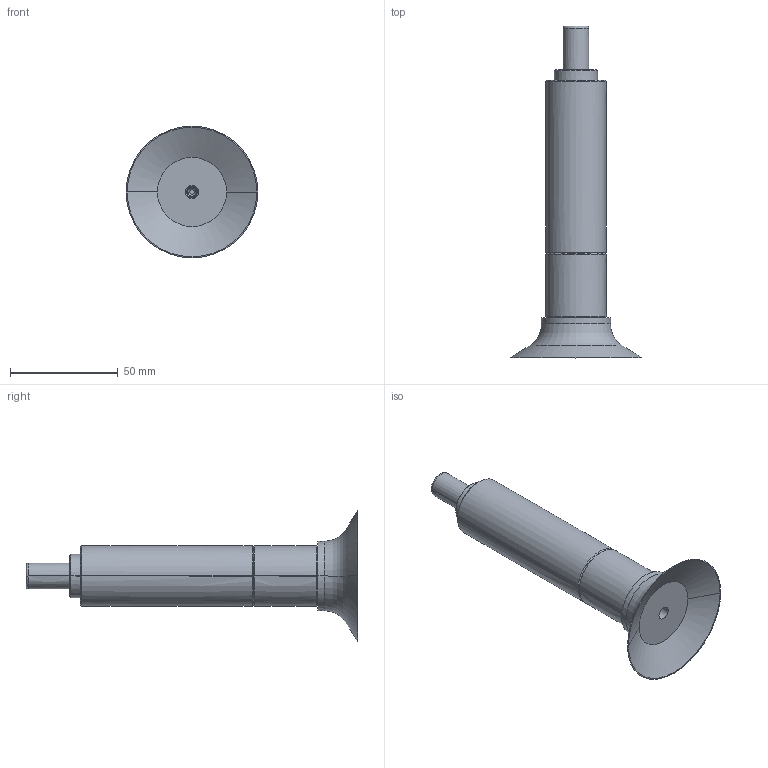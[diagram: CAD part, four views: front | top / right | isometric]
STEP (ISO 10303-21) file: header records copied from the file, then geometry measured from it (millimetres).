
FILE_DESCRIPTION((''),'2;1');
FILE_NAME('3D-NDGPAK60','2014-01-18T',('yfs-01'),('foxconn'),'PRO/ENGINEER BY PARAMETRIC TECHNOLOGY CORPORATION, 2007230','PRO/ENGINEER BY PARAMETRIC TECHNOLOGY CORPORATION, 2007230','');
FILE_SCHEMA(('CONFIG_CONTROL_DESIGN'));
Length unit declared in the file: millimetre
Products named in the file (1): 3D-NDGPAK60
Bounding box: 61 x 153.7 x 61 mm (x, y, z)
Surface area: 26292.9 mm2 (no closed solid volume)
Topology: 0 solids, 0 shells, 81 faces, 324 edges, 322 vertices
Faces by surface type: bspline 77, torus 4
Entity records: 8902 total; most frequent: CARTESIAN_POINT 5770, DIRECTION 530, TRIMMED_CURVE 424, VECTOR 326, LINE 326, DEFINITIONAL_REPRESENTATION 320, PCURVE 320, COMPOSITE_CURVE_SEGMENT 320
